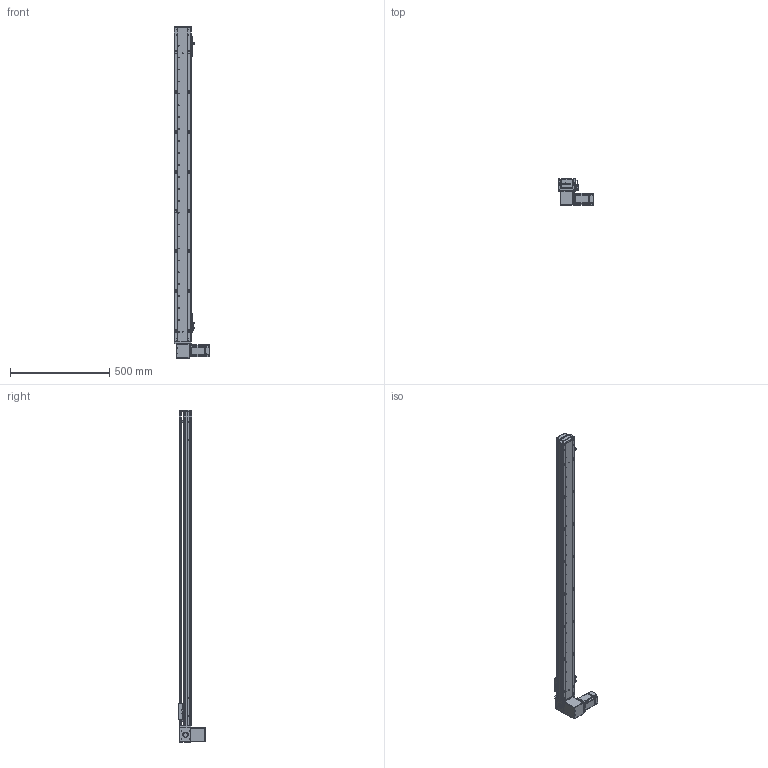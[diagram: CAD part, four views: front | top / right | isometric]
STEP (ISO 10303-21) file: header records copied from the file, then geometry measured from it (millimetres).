
FILE_DESCRIPTION (( 'STEP AP203' ), '1' );
FILE_NAME ('RY80-T-300-DR.SLDASM_1400.step', '2021-03-01T01:50:43', ( '盈信电脑' ), ( '东莞市道滘镇水果街19号' ), 'SwSTEP 2.0', 'SolidWorks 2012', '' );
FILE_SCHEMA (( 'CONFIG_CONTROL_DESIGN' ));
Length unit declared in the file: millimetre
Products named in the file (18): RY80-T-300-DR.SLDASM_1400; RY80-T-M4蹟翐3; RY80-T萇儂假蚾啣; RY80-T肮祭謫狟殏俋欶; 1; RY80-T翋肮祭謫裔啣; RY80-T-上下折同步轮盖板; 滅袉蝶18-10; RY80-T肮祭湍揤輸2; 覜茼ん672; RY80-T肮祭湍揤輸1; RY80-T-翋肮祭謫釱; RY80俋离覜茼え; RY80-T肮祭謫臏賑輸; RY80-T-300-DR倰第奻裔啣_1400; RY80-T綴裔啣; 672嫖萇羲壽假蚾釱; RY80-T-300-DR倰第菁釱_1400
Assembly tree (21 placements, depth 2):
  RY80-T-300-DR.SLDASM_1400
    RY80-T-300-DR倰第菁釱_1400
    RY80-T肮祭謫臏賑輸
    RY80-T-300-DR倰第奻裔啣_1400
    RY80-T綴裔啣
    672嫖萇羲壽假蚾釱  x2
    覜茼ん672  x3
    RY80俋离覜茼え
    RY80-T-翋肮祭謫釱
    RY80-T肮祭湍揤輸1
    RY80-T肮祭湍揤輸2
    滅袉蝶18-10  x2
    RY80-T翋肮祭謫裔啣
    RY80-T-上下折同步轮盖板
    RY80-T肮祭謫狟殏俋欶
    RY80-T萇儂假蚾啣
    1
    RY80-T-M4蹟翐3
Bounding box: 180 x 134.5 x 1670 mm (x, y, z)
Volume: 2683988.9 mm3; surface area: 1135718.6 mm2
Topology: 21 solids, 21 shells, 2470 faces, 6846 edges, 4446 vertices
Faces by surface type: plane 1315, cylinder 957, cone 142, bspline 56
Entity records: 79260 total; most frequent: CARTESIAN_POINT 19518, ORIENTED_EDGE 12336, DIRECTION 11540, EDGE_CURVE 6168, VERTEX_POINT 4050, AXIS2_PLACEMENT_3D 3888, VECTOR 3764, LINE 3764
